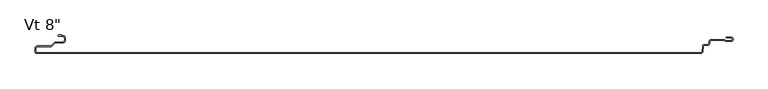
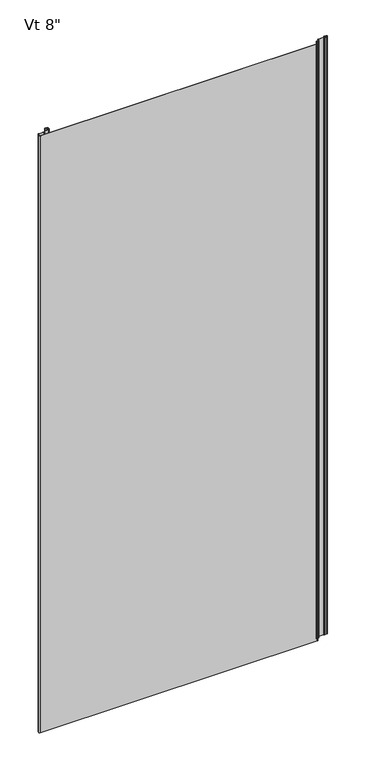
"""IFC4 building model written with IfcOpenShell, lengths in millimetres: plate geometry."""

import ifcopenshell
import ifcopenshell.guid

model = None  # the IFC model being written
_history = None  # IfcOwnerHistory: only IFC2X3 demands one
_inside = {}  # id of a spatial element -> (the spatial element, [elements in it])
_under = {}  # id of a project, library or spatial element -> (it, [spatial elements below it])
_declared = {}  # id of a project -> (the project, [libraries it declares])
_typed = {}  # id of a type object -> (the type object, [elements of that type])
_made_of = {}  # id of a material, layer set ... -> (it, [elements and type objects made of it])


def new_model(schema):
    """Start an empty IFC model of exactly this schema.

    Asked for "IFC4X3", IfcOpenShell would pick the latest addendum, in which some entities
    have other attributes; the version numbers below select the first issue.
    IFC2X3 requires an IfcOwnerHistory on every rooted entity: one is made here for all.
    """
    global model, _history
    if schema == "IFC4X3":
        model = ifcopenshell.file(schema_version=(4, 3, 0, 0))
    else:
        model = ifcopenshell.file(schema=schema)
    _inside.clear()
    _under.clear()
    _declared.clear()
    _typed.clear()
    _made_of.clear()
    _history = None
    if model.schema == "IFC2X3":
        org = make("IfcOrganization", Name="unknown")
        user = make(
            "IfcPersonAndOrganization",
            ThePerson=make("IfcPerson", FamilyName="unknown"),
            TheOrganization=org,
        )
        app = make(
            "IfcApplication",
            ApplicationDeveloper=org,
            Version="unknown",
            ApplicationFullName="unknown",
            ApplicationIdentifier="unknown",
        )
        _history = make(
            "IfcOwnerHistory",
            OwningUser=user,
            OwningApplication=app,
            ChangeAction="ADDED",
            CreationDate=0,
        )
    return model


def make(cls, **values):
    """One entity of the class cls with the attributes given. An attribute that is None is left unset."""
    return model.create_entity(
        cls, **{name: value for name, value in values.items() if value is not None}
    )


def rooted(cls, **values):
    """An entity with a GlobalId (a new one), such as an element, a storey or a relation."""
    return make(cls, GlobalId=ifcopenshell.guid.new(), OwnerHistory=_history, **values)


def si_unit(unit_type, name, prefix=None):
    """IfcSIUnit, for example si_unit("LENGTHUNIT", "METRE", prefix="MILLI")."""
    return make("IfcSIUnit", UnitType=unit_type, Prefix=prefix, Name=name)


def assignment(units):
    """IfcUnitAssignment: the units of a project."""
    return None if units is None else make("IfcUnitAssignment", Units=units)


def point(xyz):
    """IfcCartesianPoint."""
    return None if xyz is None else make("IfcCartesianPoint", Coordinates=xyz)


def direction(xyz):
    """IfcDirection."""
    return None if xyz is None else make("IfcDirection", DirectionRatios=xyz)


def frame(location, z_axis=None, x_axis=None):
    """IfcAxis2Placement3D, a coordinate frame: its origin and axes. An axis left out is left unset."""
    return make(
        "IfcAxis2Placement3D",
        Location=point(location),
        Axis=direction(z_axis),
        RefDirection=direction(x_axis),
    )


def frame_2d(location, x_axis=None):
    """IfcAxis2Placement2D, a coordinate frame in the plane: its origin and x axis."""
    return make(
        "IfcAxis2Placement2D", Location=point(location), RefDirection=direction(x_axis)
    )


def origin():
    """The frame at (0, 0, 0) with its axes left unset."""
    return frame((0.0, 0.0, 0.0))


def origin_with_axes():
    """The frame at (0, 0, 0) with the z axis (0, 0, 1) and the x axis (1, 0, 0) written out."""
    return frame((0.0, 0.0, 0.0), z_axis=(0.0, 0.0, 1.0), x_axis=(1.0, 0.0, 0.0))


def place(relative_to, where):
    """IfcLocalPlacement: puts the frame where relative to a parent placement (None: the world)."""
    return make(
        "IfcLocalPlacement", PlacementRelTo=relative_to, RelativePlacement=where
    )


def context(
    kind, dimensions, precision=None, world=None, true_north=None, identifier=None
):
    """IfcGeometricRepresentationContext, for example the 3D "Model" context."""
    return make(
        "IfcGeometricRepresentationContext",
        ContextIdentifier=identifier,
        ContextType=kind,
        CoordinateSpaceDimension=dimensions,
        Precision=precision,
        WorldCoordinateSystem=world,
        TrueNorth=true_north,
    )


def project(units=None, contexts=None):
    """IfcProject with its units and contexts."""
    return rooted(
        "IfcProject",
        Name="project",
        RepresentationContexts=contexts,
        UnitsInContext=assignment(units),
    )


def spatial(cls, under=None, at=None, **own):
    """A site, building, storey or space (cls), placed at a placement, below another one or the project."""
    s = rooted(cls, ObjectPlacement=at, **own)
    if under is not None:
        _under.setdefault(under.id(), (under, []))[1].append(s)
    return s


def polyline(points):
    """IfcPolyline through the points."""
    return make("IfcPolyline", Points=[point(p) for p in points])


def circle_curve(where, radius):
    """IfcCircle in the frame where."""
    return make("IfcCircle", Position=where, Radius=radius)


def trimmed(basis, trim1, trim2, sense, master):
    """IfcTrimmedCurve: the piece of a basis curve between two trims."""
    return make(
        "IfcTrimmedCurve",
        BasisCurve=basis,
        Trim1=trim1,
        Trim2=trim2,
        SenseAgreement=sense,
        MasterRepresentation=master,
    )


def segment(curve, same_sense, transition):
    """IfcCompositeCurveSegment."""
    return make(
        "IfcCompositeCurveSegment",
        Transition=transition,
        SameSense=same_sense,
        ParentCurve=curve,
    )


def composite_curve(segments, self_intersect=None):
    """IfcCompositeCurve: segments joined end to end."""
    return make("IfcCompositeCurve", Segments=segments, SelfIntersect=self_intersect)


def outline(outer, holes=None, kind="AREA"):
    """IfcArbitraryClosedProfileDef: a profile drawn as a closed curve; with holes, ...WithVoids."""
    if holes is None:
        return make("IfcArbitraryClosedProfileDef", ProfileType=kind, OuterCurve=outer)
    return make(
        "IfcArbitraryProfileDefWithVoids",
        ProfileType=kind,
        OuterCurve=outer,
        InnerCurves=holes,
    )


def extrude(swept, where, along, depth):
    """IfcExtrudedAreaSolid: the profile swept, set in the frame where, extruded along a direction by depth."""
    return make(
        "IfcExtrudedAreaSolid",
        SweptArea=swept,
        Position=where,
        ExtrudedDirection=direction(along),
        Depth=depth,
    )


def shape(context_of_items, identifier, shape_type, items):
    """IfcShapeRepresentation: the items that make up one representation, for example the "Body"."""
    return make(
        "IfcShapeRepresentation",
        ContextOfItems=context_of_items,
        RepresentationIdentifier=identifier,
        RepresentationType=shape_type,
        Items=items,
    )


def source(mapping_origin, context_of_items, identifier, shape_type, items):
    """IfcRepresentationMap: a shape defined once, which mapped items show again and again."""
    return make(
        "IfcRepresentationMap",
        MappingOrigin=mapping_origin,
        MappedRepresentation=shape(context_of_items, identifier, shape_type, items),
    )


def transform(
    local_origin,
    x_axis=None,
    y_axis=None,
    z_axis=None,
    scale=None,
    scale2=None,
    scale3=None,
    uniform=True,
):
    """IfcCartesianTransformationOperator3D, or its non-uniform kind. x_axis, y_axis, z_axis: its Axis1, 2, 3."""
    if uniform:
        return make(
            "IfcCartesianTransformationOperator3D",
            Axis1=direction(x_axis),
            Axis2=direction(y_axis),
            LocalOrigin=point(local_origin),
            Scale=scale,
            Axis3=direction(z_axis),
        )
    return make(
        "IfcCartesianTransformationOperator3DnonUniform",
        Axis1=direction(x_axis),
        Axis2=direction(y_axis),
        LocalOrigin=point(local_origin),
        Scale=scale,
        Axis3=direction(z_axis),
        Scale2=scale2,
        Scale3=scale3,
    )


def mapped(mapping_source, mapping_target):
    """IfcMappedItem: shows the shape of a source again, moved by a transform."""
    return make(
        "IfcMappedItem", MappingSource=mapping_source, MappingTarget=mapping_target
    )


def made_of(thing, what):
    """Note that an element or type object is made of a material, layer set ...; save() writes the relation."""
    if what is not None:
        _made_of.setdefault(what.id(), (what, []))[1].append(thing)
    return thing


def element(
    cls,
    number,
    at=None,
    inside=None,
    cuts=None,
    type_object=None,
    material=None,
    context=None,
    identifier="Body",
    shape_type=None,
    held_by="IfcProductDefinitionShape",
    body=None,
    shapes=None,
    **own,
):
    """One element of the class cls, such as IfcWall. Its Tag is "e" and its number.

    at: its placement. inside: the storey or other place that contains it. cuts: it is an
    opening in that element (IfcRelVoidsElement). A single representation is given by context,
    identifier, shape_type and body (its items); several are given by shapes. held_by: the class
    of the entity that holds the representations. save() writes the other relations.
    """
    e = rooted(cls, Tag="e%d" % number, ObjectPlacement=at, **own)
    if body is not None:
        shapes = [shape(context, identifier, shape_type, body)]
    if shapes is not None:
        e.Representation = make(held_by, Representations=shapes)
    if inside is not None:
        _inside.setdefault(inside.id(), (inside, []))[1].append(e)
    if cuts is not None:
        rooted(
            "IfcRelVoidsElement", RelatingBuildingElement=cuts, RelatedOpeningElement=e
        )
    if type_object is not None:
        _typed.setdefault(type_object.id(), (type_object, []))[1].append(e)
    return made_of(e, material)


def aggregate(whole, parts):
    """IfcRelAggregates: a whole, such as a stair, and the parts it consists of."""
    return rooted("IfcRelAggregates", RelatingObject=whole, RelatedObjects=parts)


def save(model, path):
    """Write the relations noted so far, then the file.

    IfcRelAggregates (storeys below a building ...), IfcRelContainedInSpatialStructure (elements
    in a storey), IfcRelDefinesByType, IfcRelAssociatesMaterial and IfcRelDeclares: one each for
    every whole, place, type object, material and project.
    """
    for whole, parts in _under.values():
        aggregate(whole, parts)
    for where, things in _inside.values():
        rooted(
            "IfcRelContainedInSpatialStructure",
            RelatedElements=things,
            RelatingStructure=where,
        )
    for kind, things in _typed.values():
        rooted("IfcRelDefinesByType", RelatedObjects=things, RelatingType=kind)
    for what, things in _made_of.values():
        rooted("IfcRelAssociatesMaterial", RelatedObjects=things, RelatingMaterial=what)
    for by, libraries in _declared.values():
        rooted("IfcRelDeclares", RelatingContext=by, RelatedDefinitions=libraries)
    model.write(path)


def plate_027f6629(model_context):
    return source(origin(), model_context, "Body", "SweptSolid", [
        extrude(outline(composite_curve([segment(polyline([(-532.5329867, -173.7060333), (-528.774586, -173.7060333), (-528.774586, -175.1045169), (-526.0754696, -175.1045169)]), True, "CONTINUOUS"), segment(trimmed(circle_curve(frame_2d((-526.0754696, -178.4545168)), 3.3499999), [point((-526.0754696, -175.1045169))], [point((-522.7254697, -178.4545168))], False, "CARTESIAN"), True, "CONTINUOUS"), segment(polyline([(-522.7254697, -178.4545168), (-522.7254697, -182.8545166)]), True, "CONTINUOUS"), segment(trimmed(circle_curve(frame_2d((-526.0754696, -182.8545166)), 3.3499999), [point((-522.7254697, -182.8545166))], [point((-526.0754696, -186.2045165))], False, "CARTESIAN"), True, "CONTINUOUS"), segment(polyline([(-526.0754696, -186.2045165), (-537.8863818, -186.2045165)]), True, "CONTINUOUS"), segment(trimmed(circle_curve(frame_2d((-537.8863818, -187.9045165)), 1.7), [point((-537.8863818, -186.2045165))], [point((-539.0884633, -186.702435))], True, "CARTESIAN"), True, "CONTINUOUS"), segment(polyline([(-539.0884633, -186.702435), (-543.8290223, -191.4429939)]), True, "CONTINUOUS"), segment(trimmed(circle_curve(frame_2d((-545.6674999, -189.6045163)), 2.6), [point((-543.8290223, -191.4429939))], [point((-545.6674999, -192.2045163))], False, "CARTESIAN"), True, "CONTINUOUS"), segment(polyline([(-545.6674999, -192.2045163), (-566.6742572, -192.2045163)]), True, "CONTINUOUS"), segment(trimmed(circle_curve(frame_2d((-566.6742572, -194.9045163)), 2.7), [point((-566.6742572, -192.2045163))], [point((-569.3639643, -194.6689835))], True, "CARTESIAN"), True, "CONTINUOUS"), segment(polyline([(-569.3639643, -194.6689835), (-569.7796495, -199.4159721)]), True, "CONTINUOUS"), segment(trimmed(circle_curve(frame_2d((-567.22876, -199.6393488)), 2.5606512), [point((-569.7796495, -199.4159721))], [point((-567.22876, -202.2))], True, "CARTESIAN"), True, "CONTINUOUS"), segment(polyline([(-567.22876, -202.2), (487.6519047, -202.2)]), True, "CONTINUOUS"), segment(trimmed(circle_curve(frame_2d((487.6519047, -200.3102824)), 1.8897176), [point((487.6519047, -202.2))], [point((489.5344274, -200.4750281))], True, "CARTESIAN"), True, "CONTINUOUS"), segment(polyline([(489.5344274, -200.4750281), (490.2810225, -191.9438082)]), True, "CONTINUOUS"), segment(trimmed(circle_curve(frame_2d((493.2970771, -192.2077531)), 3.027582), [point((490.2810225, -191.9438082))], [point((490.8950589, -190.3647769))], False, "CARTESIAN"), True, "CONTINUOUS"), segment(trimmed(circle_curve(frame_2d((493.2751942, -192.1909631)), 3.0), [point((490.8950589, -190.3647769))], [point((493.2848524, -189.1909787))], False, "CARTESIAN"), True, "CONTINUOUS"), segment(polyline([(493.2848524, -189.1909787), (498.6449659, -189.1909787)]), True, "CONTINUOUS"), segment(trimmed(circle_curve(frame_2d((498.6449659, -187.3909787)), 1.8), [point((498.6449659, -189.1909787))], [point((500.4449659, -187.3909787))], True, "CARTESIAN"), True, "CONTINUOUS"), segment(polyline([(500.4449659, -187.3909787), (500.4449659, -185.100418)]), True, "CONTINUOUS"), segment(trimmed(circle_curve(frame_2d((504.4449659, -185.100418)), 4.0), [point((500.4449659, -185.100418))], [point((504.4449659, -181.100418))], False, "CARTESIAN"), True, "CONTINUOUS"), segment(polyline([(504.4449659, -181.100418), (523.9824407, -181.100418)]), True, "CONTINUOUS"), segment(trimmed(circle_curve(frame_2d((523.9824407, -183.700418)), 2.6), [point((523.9824407, -181.100418))], [point((525.9423153, -181.9919416))], False, "CARTESIAN"), True, "CONTINUOUS"), segment(polyline([(525.9423153, -181.9919416), (526.8881383, -183.0769402), (535.7430969, -182.7263694)]), True, "CONTINUOUS"), segment(trimmed(circle_curve(frame_2d((535.6599479, -180.6261346)), 2.10188), [point((535.7430969, -182.7263694))], [point((535.7400007, -178.5257796))], True, "CARTESIAN"), True, "CONTINUOUS"), segment(polyline([(535.7400007, -178.5257796), (527.7295248, -178.0370324), (527.790425, -177.0388885), (535.7906063, -177.5270077)]), True, "CONTINUOUS"), segment(trimmed(circle_curve(frame_2d((535.6599479, -180.6261346)), 3.10188), [point((535.7906063, -177.5270077))], [point((535.7826562, -183.7255866))], False, "CARTESIAN"), True, "CONTINUOUS"), segment(polyline([(535.7826562, -183.7255866), (526.4490857, -184.0951059), (525.1885174, -182.6490479)]), True, "CONTINUOUS"), segment(trimmed(circle_curve(frame_2d((523.9824407, -183.700418)), 1.6), [point((525.1885174, -182.6490479))], [point((523.9824407, -182.100418))], True, "CARTESIAN"), True, "CONTINUOUS"), segment(polyline([(523.9824407, -182.100418), (504.4449659, -182.100418)]), True, "CONTINUOUS"), segment(trimmed(circle_curve(frame_2d((504.4449659, -185.100418)), 3.0), [point((504.4449659, -182.100418))], [point((501.4449659, -185.100418))], True, "CARTESIAN"), True, "CONTINUOUS"), segment(polyline([(501.4449659, -185.100418), (501.4449659, -187.3909787)]), True, "CONTINUOUS"), segment(trimmed(circle_curve(frame_2d((498.6449659, -187.3909787)), 2.8), [point((501.4449659, -187.3909787))], [point((498.6449659, -190.1909787))], False, "CARTESIAN"), True, "CONTINUOUS"), segment(polyline([(498.6449659, -190.1909787), (493.28308, -190.1909787)]), True, "CONTINUOUS"), segment(trimmed(circle_curve(frame_2d((493.2751942, -192.1909631)), 2.0), [point((493.28308, -190.1909787))], [point((491.6884373, -190.9735057))], True, "CARTESIAN"), True, "CONTINUOUS"), segment(trimmed(circle_curve(frame_2d((493.2970771, -192.2077531)), 2.027582), [point((491.6884373, -190.9735057))], [point((491.277215, -192.0309883))], True, "CARTESIAN"), True, "CONTINUOUS"), segment(polyline([(491.277215, -192.0309883), (490.53062, -200.5622082)]), True, "CONTINUOUS"), segment(trimmed(circle_curve(frame_2d((487.6519047, -200.3102824)), 2.8897176), [point((490.53062, -200.5622082))], [point((487.6519047, -203.2))], False, "CARTESIAN"), True, "CONTINUOUS"), segment(polyline([(487.6519047, -203.2), (-567.22876, -203.2)]), True, "CONTINUOUS"), segment(trimmed(circle_curve(frame_2d((-567.22876, -199.6393488)), 3.5606512), [point((-567.22876, -203.2))], [point((-570.7758373, -199.3287377))], False, "CARTESIAN"), True, "CONTINUOUS"), segment(polyline([(-570.7758373, -199.3287377), (-570.3601521, -194.5817491)]), True, "CONTINUOUS"), segment(trimmed(circle_curve(frame_2d((-566.6742572, -194.9045163)), 3.7), [point((-570.3601521, -194.5817491))], [point((-566.6742572, -191.2045163))], False, "CARTESIAN"), True, "CONTINUOUS"), segment(polyline([(-566.6742572, -191.2045163), (-545.6674999, -191.2045163)]), True, "CONTINUOUS"), segment(trimmed(circle_curve(frame_2d((-545.6674999, -189.6045163)), 1.6), [point((-545.6674999, -191.2045163))], [point((-544.5361291, -190.7358871))], True, "CARTESIAN"), True, "CONTINUOUS"), segment(polyline([(-544.5361291, -190.7358871), (-539.7955701, -185.9953282)]), True, "CONTINUOUS"), segment(trimmed(circle_curve(frame_2d((-537.8863818, -187.9045165)), 2.7), [point((-539.7955701, -185.9953282))], [point((-537.8863818, -185.2045165))], False, "CARTESIAN"), True, "CONTINUOUS"), segment(polyline([(-537.8863818, -185.2045165), (-526.0754696, -185.2045165)]), True, "CONTINUOUS"), segment(trimmed(circle_curve(frame_2d((-526.0754696, -182.8545166)), 2.3499999), [point((-526.0754696, -185.2045165))], [point((-523.7254697, -182.8545166))], True, "CARTESIAN"), True, "CONTINUOUS"), segment(polyline([(-523.7254697, -182.8545166), (-523.7254697, -178.4545168)]), True, "CONTINUOUS"), segment(trimmed(circle_curve(frame_2d((-526.0754696, -178.4545168)), 2.3499999), [point((-523.7254697, -178.4545168))], [point((-526.0754696, -176.1045169))], True, "CARTESIAN"), True, "CONTINUOUS"), segment(polyline([(-526.0754696, -176.1045169), (-532.5947886, -176.1045169)]), True, "CONTINUOUS"), segment(trimmed(circle_curve(frame_2d((-532.5345014, -174.9060323)), 1.2), [point((-532.5947886, -176.1045169))], [point((-532.5329867, -173.7060333))], False, "CARTESIAN"), True, "CONTINUOUS")], self_intersect=False)), origin_with_axes(), (0.0, 0.0, 1.0), 2400.0),
    ])


if __name__ == "__main__":
    model = new_model("IFC4")
    model_context = context("Model", 3, world=origin())
    ifc_project = project(units=[si_unit("LENGTHUNIT", "METRE", prefix="MILLI")], contexts=[model_context])
    site = spatial("IfcSite", under=ifc_project)
    building = spatial("IfcBuilding", under=site)
    placement = place(None, origin())
    plate_shape = plate_027f6629(model_context)
    element("IfcPlate", 1, ObjectType="KIP-42-KRHF-R19-CP-Vt-FL_SL : Vt 8\"", at=placement, inside=building, context=model_context, shape_type="MappedRepresentation", body=[
        mapped(plate_shape, transform((0.0, 0.0, 0.0), x_axis=(1.0, 0.0, 0.0), y_axis=(0.0, 1.0, 0.0), z_axis=(0.0, 0.0, 1.0))),
    ])
    save(model, "model.ifc")
